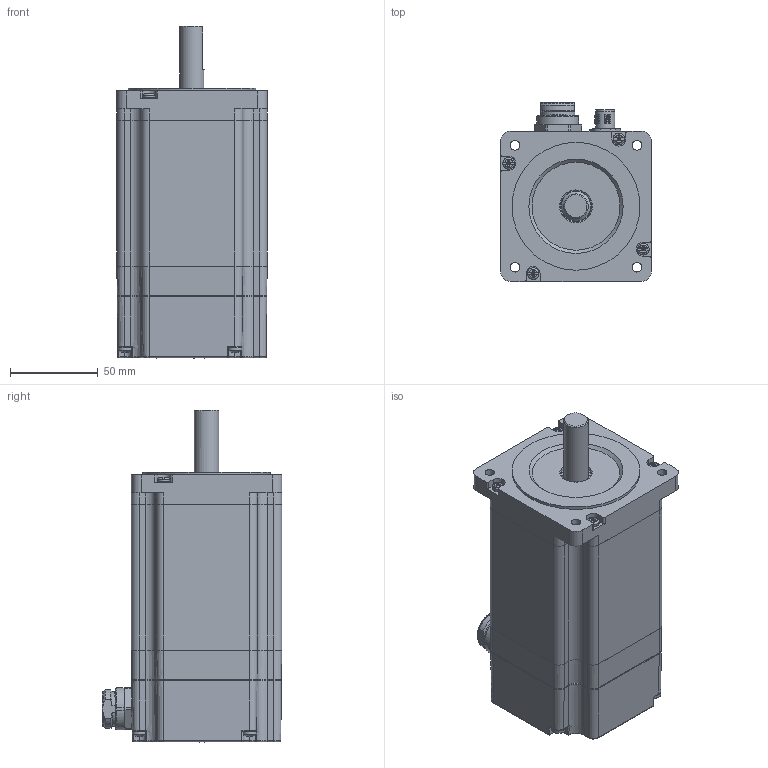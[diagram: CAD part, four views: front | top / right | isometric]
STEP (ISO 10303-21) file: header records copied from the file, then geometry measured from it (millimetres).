
FILE_DESCRIPTION (( 'STEP AP214' ), '1' );
FILE_NAME ('M86SH118B.STEP', '2022-01-31T09:25:56', ( '' ), ( '' ), 'SwSTEP 2.0', 'SolidWorks 2019', '' );
FILE_SCHEMA (( 'AUTOMOTIVE_DESIGN' ));
Length unit declared in the file: millimetre
Products named in the file (13): M86SH118B; 7_8connector-1521452; Vite serrapacco 118 BAO M4x109.5; Flangia  86 BAO; Terminal box 86 BAO; Albero 86SH118 BAO; Flangia P 86 BAO; Vite M4 impronta a croce terminal box 86SH_DIN EN ISO 7045 - M3 x 4 - Z - 4N; Cuscinetto anteriore 86 BAO; Guarnizione 86SH; Statore 86SH118 BAO; Cuscinetto posteriore 86 BAO; 1523492
Assembly tree (18 placements, depth 2):
  M86SH118B
    Flangia  86 BAO
    Albero 86SH118 BAO
    Cuscinetto anteriore 86 BAO
    Statore 86SH118 BAO
    Cuscinetto posteriore 86 BAO
    Flangia P 86 BAO
    Vite M4 impronta a croce terminal box 86SH_DIN EN ISO 7045 - M3 x 4 - Z - 4N  x4
    Vite serrapacco 118 BAO M4x109.5  x4
    7_8connector-1521452
    1523492
    Guarnizione 86SH
    Terminal box 86 BAO
Bounding box: 85.9 x 102.59 x 189.55 mm (x, y, z)
Volume: 615967.3 mm3; surface area: 194136.9 mm2
Topology: 31 solids, 31 shells, 2009 faces, 4792 edges, 2934 vertices
Faces by surface type: plane 789, cylinder 494, cone 475, bspline 171, torus 68, sphere 12
Full cylindrical faces by diameter (mm): 0.217 x1, 0.8 x8, 1.09 x8, 2 x5, 2.4 x5, 2.5 x1, 3 x5, 3.3 x12, 3.8 x4, 4 x177, 4.5 x24, 5.5 x4, 5.6 x4, 6.7 x4, 8 x5, 10.7 x1, 10.9 x1, 14 x1, 14.5 x1, 15 x2, 16.62 x1, 17 x2, 17.7 x1, 17.8 x1, 18 x1, 18.5 x2, 19.3 x2, 19.85 x2, 20.137 x2, 20.637 x1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
Entity records: 58458 total; most frequent: CARTESIAN_POINT 17066, DIRECTION 6361, ORIENTED_EDGE 6294, EDGE_CURVE 3147, AXIS2_PLACEMENT_3D 2311, VERTEX_POINT 2213, EDGE_LOOP 2046, VECTOR 1739
